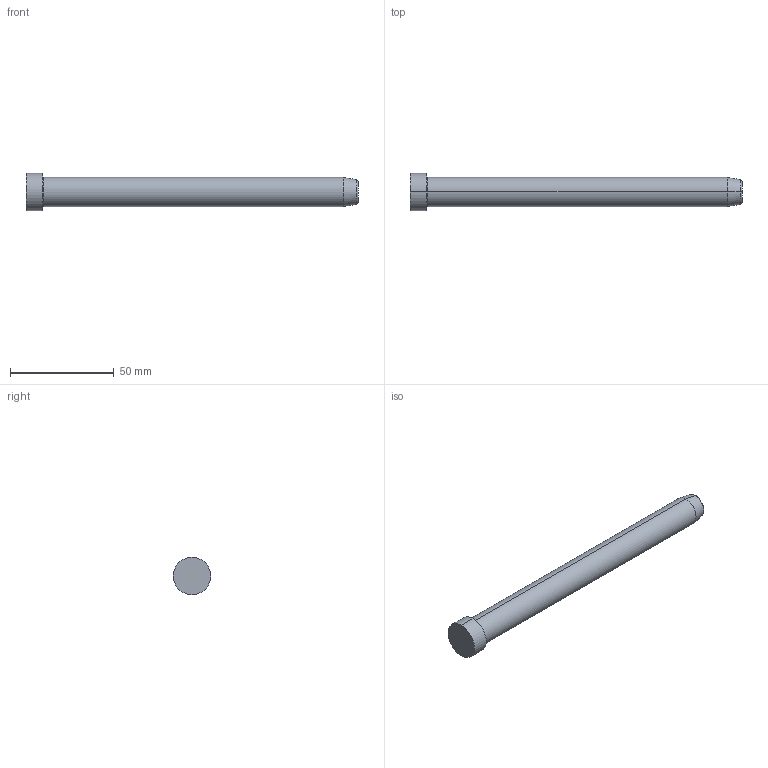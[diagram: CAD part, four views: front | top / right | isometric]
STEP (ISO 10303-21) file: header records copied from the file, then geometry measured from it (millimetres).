
FILE_DESCRIPTION( ( 'STEP AP203' ), '1' );
FILE_NAME( 'D:/Delta 3 D/D01D/14/D01D - 14x160.step', '2003-01-02T23:15:03', ( ' ' ), ( ' ' ), 'XStep 1.0', ' ', ' ' );
FILE_SCHEMA( ( 'CONFIG_CONTROL_DESIGN' ) );
Length unit declared in the file: metre
Products named in the file (1): 1
Bounding box: 160 x 18 x 18 mm (x, y, z)
Volume: 25245.1 mm3; surface area: 7584.6 mm2
Topology: 1 solids, 1 shells, 14 faces, 26 edges, 16 vertices
Faces by surface type: revolution 8, bspline 6
Entity records: 437 total; most frequent: CARTESIAN_POINT 121, ORIENTED_EDGE 52, DIRECTION 50, EDGE_CURVE 26, AXIS2_PLACEMENT_3D 17, EDGE_LOOP 16, VERTEX_POINT 16, CIRCLE 16
